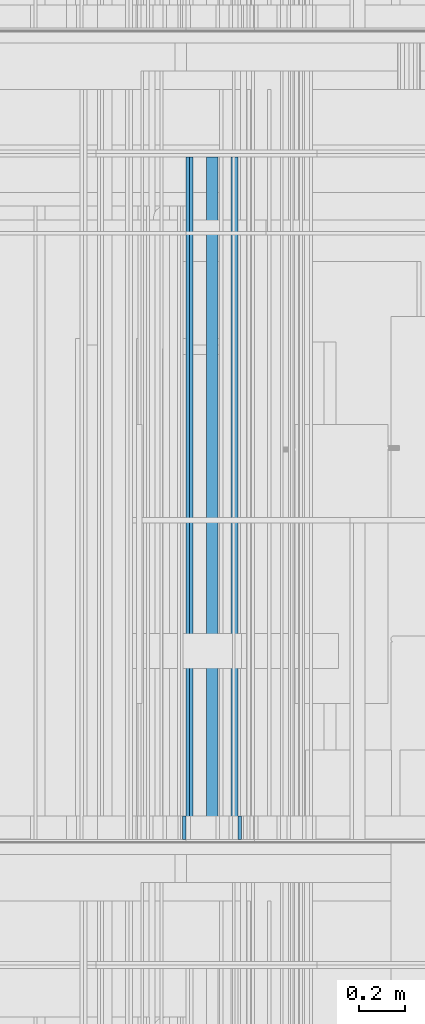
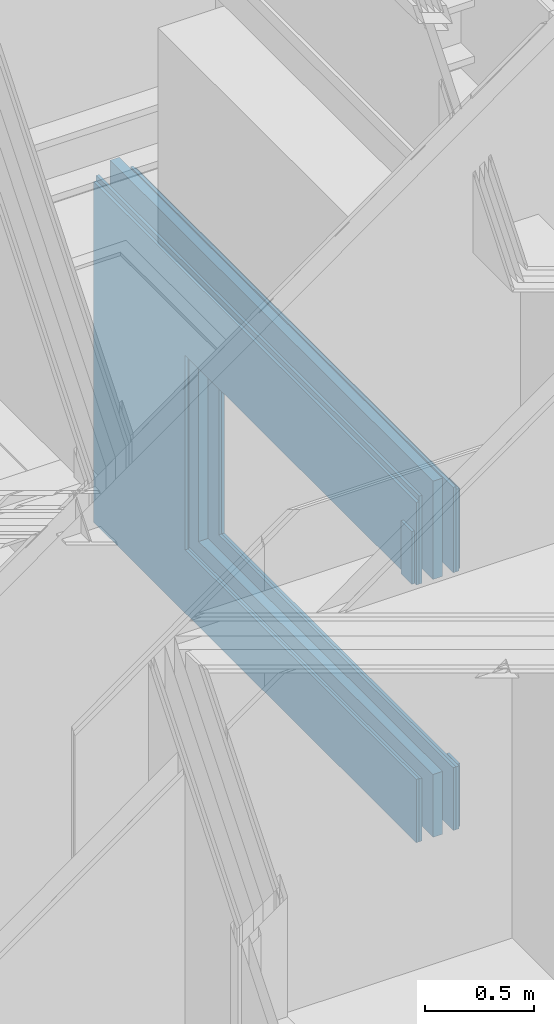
# One storey, part 77 of 583: 7 building element parts, 2 openings, 1 element without a shape of its own.
"""IFC2X3 building model written with IfcOpenShell, lengths in metres."""

from ifc_helpers import new_model, entity, si_unit, converted_unit, derived_unit, money_unit, direction, frame, frame_2d, origin_with_axes, place, context, subcontext, project, spatial, rectangle, extrude, material, type_object, element, aggregate, save


model = new_model("IFC2X3")

# Units and contexts
model_context = context("Model", 3, precision=1e-05, world=origin_with_axes(), true_north=direction((0.0, 1.0)))
body_context = subcontext(model_context, "Body", "Model", "MODEL_VIEW", scale=1.0)
ifc_project = project(units=[si_unit("LENGTHUNIT", "METRE"), si_unit("AREAUNIT", "SQUARE_METRE"), si_unit("VOLUMEUNIT", "CUBIC_METRE"), si_unit("ABSORBEDDOSEUNIT", "GRAY"), si_unit("AMOUNTOFSUBSTANCEUNIT", "MOLE"), si_unit("DOSEEQUIVALENTUNIT", "SIEVERT"), si_unit("ELECTRICCAPACITANCEUNIT", "FARAD"), si_unit("ELECTRICCHARGEUNIT", "COULOMB"), si_unit("ELECTRICCONDUCTANCEUNIT", "SIEMENS"), si_unit("ELECTRICCURRENTUNIT", "AMPERE"), si_unit("ELECTRICRESISTANCEUNIT", "OHM"), si_unit("ELECTRICVOLTAGEUNIT", "VOLT"), si_unit("ENERGYUNIT", "JOULE"), si_unit("FORCEUNIT", "NEWTON"), si_unit("FREQUENCYUNIT", "HERTZ"), si_unit("ILLUMINANCEUNIT", "LUX"), si_unit("INDUCTANCEUNIT", "HENRY"), si_unit("LUMINOUSFLUXUNIT", "LUMEN"), si_unit("LUMINOUSINTENSITYUNIT", "CANDELA"), si_unit("MAGNETICFLUXDENSITYUNIT", "TESLA"), si_unit("MAGNETICFLUXUNIT", "WEBER"), si_unit("MASSUNIT", "GRAM"), converted_unit("PLANEANGLEUNIT", "degree", entity("IfcReal", 0.0174532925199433), si_unit("PLANEANGLEUNIT", "RADIAN"), dimensions=[0, 0, 0, 0, 0, 0, 0]), si_unit("POWERUNIT", "WATT"), si_unit("PRESSUREUNIT", "PASCAL"), si_unit("RADIOACTIVITYUNIT", "BECQUEREL"), si_unit("SOLIDANGLEUNIT", "STERADIAN"), si_unit("THERMODYNAMICTEMPERATUREUNIT", "KELVIN"), si_unit("TIMEUNIT", "SECOND"), derived_unit("ACCELERATIONUNIT", [(si_unit("LENGTHUNIT", "METRE"), 1), (si_unit("TIMEUNIT", "SECOND"), -2)]), derived_unit("ANGULARVELOCITYUNIT", [(converted_unit("PLANEANGLEUNIT", "degree", entity("IfcReal", 0.0174532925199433), si_unit("PLANEANGLEUNIT", "RADIAN"), dimensions=[0, 0, 0, 0, 0, 0, 0]), 1), (si_unit("TIMEUNIT", "SECOND"), -1)]), derived_unit("CURVATUREUNIT", [(converted_unit("PLANEANGLEUNIT", "degree", entity("IfcReal", 0.0174532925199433), si_unit("PLANEANGLEUNIT", "RADIAN"), dimensions=[0, 0, 0, 0, 0, 0, 0]), 1), (si_unit("LENGTHUNIT", "METRE"), -1)]), derived_unit("DYNAMICVISCOSITYUNIT", [(si_unit("PRESSUREUNIT", "PASCAL"), 1), (si_unit("TIMEUNIT", "SECOND"), 1)]), derived_unit("HEATFLUXDENSITYUNIT", [(si_unit("POWERUNIT", "WATT"), 1), (si_unit("LENGTHUNIT", "METRE"), -2)]), derived_unit("HEATINGVALUEUNIT", [(si_unit("ENERGYUNIT", "JOULE"), 1), (si_unit("MASSUNIT", "GRAM"), -1)]), derived_unit("INTEGERCOUNTRATEUNIT", [(si_unit("TIMEUNIT", "SECOND"), -1)]), derived_unit("IONCONCENTRATIONUNIT", [(si_unit("MASSUNIT", "GRAM"), 1), (si_unit("VOLUMEUNIT", "CUBIC_METRE"), -1)]), derived_unit("ISOTHERMALMOISTURECAPACITYUNIT", [(si_unit("VOLUMEUNIT", "CUBIC_METRE"), 1), (si_unit("MASSUNIT", "GRAM"), -1)]), derived_unit("KINEMATICVISCOSITYUNIT", [(si_unit("AREAUNIT", "SQUARE_METRE"), 1), (si_unit("TIMEUNIT", "SECOND"), -1)]), derived_unit("LINEARFORCEUNIT", [(si_unit("FORCEUNIT", "NEWTON"), 1), (si_unit("LENGTHUNIT", "METRE"), -1)]), derived_unit("LINEARMOMENTUNIT", [(si_unit("FORCEUNIT", "NEWTON"), 1), (si_unit("LENGTHUNIT", "METRE"), -1)]), derived_unit("LINEARSTIFFNESSUNIT", [(si_unit("FORCEUNIT", "NEWTON"), 1), (si_unit("LENGTHUNIT", "METRE"), -1)]), derived_unit("LINEARVELOCITYUNIT", [(si_unit("LENGTHUNIT", "METRE"), 1), (si_unit("TIMEUNIT", "SECOND"), -1)]), derived_unit("LUMINOUSINTENSITYDISTRIBUTIONUNIT", [(si_unit("LUMINOUSINTENSITYUNIT", "CANDELA"), 1), (si_unit("LUMINOUSFLUXUNIT", "LUMEN"), -1)]), derived_unit("MASSDENSITYUNIT", [(si_unit("MASSUNIT", "GRAM"), 1), (si_unit("VOLUMEUNIT", "CUBIC_METRE"), -1)]), derived_unit("MASSFLOWRATEUNIT", [(si_unit("MASSUNIT", "GRAM"), 1), (si_unit("TIMEUNIT", "SECOND"), -1)]), derived_unit("MASSPERLENGTHUNIT", [(si_unit("MASSUNIT", "GRAM"), 1), (si_unit("LENGTHUNIT", "METRE"), -1)]), derived_unit("MODULUSOFELASTICITYUNIT", [(si_unit("FORCEUNIT", "NEWTON"), 1), (si_unit("AREAUNIT", "SQUARE_METRE"), -1)]), derived_unit("MODULUSOFLINEARSUBGRADEREACTIONUNIT", [(si_unit("FORCEUNIT", "NEWTON"), 1), (si_unit("LENGTHUNIT", "METRE"), -2)]), derived_unit("MODULUSOFROTATIONALSUBGRADEREACTIONUNIT", [(si_unit("FORCEUNIT", "NEWTON"), 1), (si_unit("LENGTHUNIT", "METRE"), 1)]), derived_unit("MODULUSOFSUBGRADEREACTIONUNIT", [(si_unit("FORCEUNIT", "NEWTON"), 1), (si_unit("VOLUMEUNIT", "CUBIC_METRE"), -1)]), derived_unit("MOISTUREDIFFUSIVITYUNIT", [(si_unit("VOLUMEUNIT", "CUBIC_METRE"), 1), (si_unit("TIMEUNIT", "SECOND"), -1)]), derived_unit("MOLECULARWEIGHTUNIT", [(si_unit("MASSUNIT", "GRAM"), 1), (si_unit("AMOUNTOFSUBSTANCEUNIT", "MOLE"), -1)]), derived_unit("PLANARFORCEUNIT", [(si_unit("FORCEUNIT", "NEWTON"), 1), (si_unit("LENGTHUNIT", "METRE"), -2)]), derived_unit("ROTATIONALFREQUENCYUNIT", [(si_unit("TIMEUNIT", "SECOND"), -1)]), derived_unit("ROTATIONALMASSUNIT", [(si_unit("MASSUNIT", "GRAM"), 1), (si_unit("LENGTHUNIT", "METRE"), 2)]), derived_unit("ROTATIONALSTIFFNESSUNIT", [(si_unit("FORCEUNIT", "NEWTON"), 1), (si_unit("LENGTHUNIT", "METRE"), 1), (converted_unit("PLANEANGLEUNIT", "degree", entity("IfcReal", 0.0174532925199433), si_unit("PLANEANGLEUNIT", "RADIAN"), dimensions=[0, 0, 0, 0, 0, 0, 0]), -1)]), derived_unit("SECTIONAREAINTEGRALUNIT", [(si_unit("LENGTHUNIT", "METRE"), 5)]), derived_unit("SECTIONMODULUSUNIT", [(si_unit("LENGTHUNIT", "METRE"), 3)]), derived_unit("SHEARMODULUSUNIT", [(si_unit("FORCEUNIT", "NEWTON"), 1), (si_unit("AREAUNIT", "SQUARE_METRE"), -1)]), derived_unit("SOUNDPOWERUNIT", [(si_unit("ENERGYUNIT", "JOULE"), 1), (si_unit("TIMEUNIT", "SECOND"), -1)]), derived_unit("SPECIFICHEATCAPACITYUNIT", [(si_unit("FORCEUNIT", "NEWTON"), 1), (si_unit("MASSUNIT", "GRAM"), -1), (si_unit("THERMODYNAMICTEMPERATUREUNIT", "KELVIN"), -1)]), derived_unit("TEMPERATUREGRADIENTUNIT", [(si_unit("THERMODYNAMICTEMPERATUREUNIT", "KELVIN"), 1), (si_unit("LENGTHUNIT", "METRE"), -1)]), derived_unit("THERMALADMITTANCEUNIT", [(si_unit("POWERUNIT", "WATT"), 1), (si_unit("AREAUNIT", "SQUARE_METRE"), -1), (si_unit("THERMODYNAMICTEMPERATUREUNIT", "KELVIN"), -1)]), derived_unit("THERMALCONDUCTANCEUNIT", [(si_unit("POWERUNIT", "WATT"), 1), (si_unit("LENGTHUNIT", "METRE"), -1), (si_unit("THERMODYNAMICTEMPERATUREUNIT", "KELVIN"), -1)]), derived_unit("THERMALEXPANSIONCOEFFICIENTUNIT", [(si_unit("THERMODYNAMICTEMPERATUREUNIT", "KELVIN"), -1)]), derived_unit("THERMALRESISTANCEUNIT", [(si_unit("AREAUNIT", "SQUARE_METRE"), 1), (si_unit("POWERUNIT", "WATT"), -1)]), derived_unit("THERMALTRANSMITTANCEUNIT", [(si_unit("POWERUNIT", "WATT"), 1), (si_unit("AREAUNIT", "SQUARE_METRE"), -1), (si_unit("THERMODYNAMICTEMPERATUREUNIT", "KELVIN"), -1)]), derived_unit("TORQUEUNIT", [(si_unit("FORCEUNIT", "NEWTON"), 1), (si_unit("LENGTHUNIT", "METRE"), 1)]), derived_unit("VAPORPERMEABILITYUNIT", [(si_unit("MASSUNIT", "GRAM"), 1), (si_unit("TIMEUNIT", "SECOND"), -1)]), derived_unit("VOLUMETRICFLOWRATEUNIT", [(si_unit("VOLUMEUNIT", "CUBIC_METRE"), 1), (si_unit("TIMEUNIT", "SECOND"), -1)]), derived_unit("WARPINGCONSTANTUNIT", [(si_unit("LENGTHUNIT", "METRE"), 6)]), derived_unit("WARPINGMOMENTUNIT", [(si_unit("FORCEUNIT", "NEWTON"), 1), (si_unit("LENGTHUNIT", "METRE"), 2)]), money_unit("GBP")], contexts=[model_context])

# Site, building, storey
site_placement = place(None, origin_with_axes())
site = spatial("IfcSite", under=ifc_project, at=site_placement, Name="Site", CompositionType="ELEMENT")
building_placement = place(site_placement, origin_with_axes())
building = spatial("IfcBuilding", under=site, at=building_placement, Name="Building01", CompositionType="ELEMENT")
storey_placement = place(building_placement, frame((0.0, 0.0, 20.78), z_axis=(0.0, 0.0, 1.0), x_axis=(1.0, 0.0, 0.0)))
storey = spatial("IfcBuildingStorey", under=building, at=storey_placement, Name="RL", CompositionType="ELEMENT", Elevation=20.78)

# Wall, openings, building element parts
wall_type = type_object("IfcWallType", Name="SHE_A-Walls_Type01c_Partywall_225mm_twin_tall", PredefinedType="NOTDEFINED")
wall_placement = place(storey_placement, frame((6.793, 8.64, -2.78), z_axis=(0.0, 1.0, 0.0), x_axis=(0.0, 0.0, 1.0)))
wall = element("IfcWall", 1, at=wall_placement, inside=storey, type_object=wall_type, Name="1C", ObjectType="SHE_A-Walls_Type01c_Partywall_225mm_twin_tall")
opening_1_placement = place(wall_placement, frame((0.353, -0.313, -0.03), z_axis=(0.0, 0.0, 1.0), x_axis=(1.0, 0.0, 0.0)))
element("IfcOpeningElement", 2, at=opening_1_placement, cuts=wall, Name="Opening", ObjectType="Opening", context=body_context, shape_type="SweptSolid", body=[
    extrude(rectangle(XDim=2.142, YDim=1.084, at=frame_2d((-0.542, 1.071), x_axis=(0.0, -1.0))), frame((0.0, -0.5445, 0.0), z_axis=(0.0, 1.0, 0.0), x_axis=(-1.0, 0.0, 0.0)), (0.0, 0.0, 1.0), 1.089),
])
opening_2_placement = place(wall_placement, frame((0.35, 0.137, 0.0), z_axis=(0.0, 0.0, 1.0), x_axis=(1.0, 0.0, 0.0)))
element("IfcOpeningElement", 3, at=opening_2_placement, cuts=wall, Name="Opening", ObjectType="Opening", context=body_context, shape_type="SweptSolid", body=[
    extrude(rectangle(XDim=2.142, YDim=1.084, at=frame_2d((-0.542, 1.071), x_axis=(0.0, -1.0))), frame((0.0, -0.2055, 0.0), z_axis=(0.0, 1.0, 0.0), x_axis=(-1.0, 0.0, 0.0)), (0.0, 0.0, 1.0), 0.411),
])
ifc_material_1 = material(Name="A_BSUK_Insulation")
placement = place(wall_placement, origin_with_axes())
building_element_part_1 = element("IfcBuildingElementPart", 4, at=placement, material=ifc_material_1, Name="1", context=body_context, shape_type="SweptSolid", body=[
    extrude(rectangle(XDim=1.985661, YDim=0.05, at=frame_2d((0.992831, 0.025), x_axis=(-1.0, 0.0))), origin_with_axes(), (0.0, 0.0, 1.0), 2.95),
])
ifc_material_2 = material(Name="A_BSUK_Walls_Timber")
building_element_part_2 = element("IfcBuildingElementPart", 5, at=placement, material=ifc_material_2, Name="2", context=body_context, shape_type="SweptSolid", body=[
    extrude(rectangle(XDim=1.882661, YDim=0.015, at=frame_2d((0.941331, 0.1445), x_axis=(-1.0, 0.0))), frame((0.0, 0.0, 0.015), z_axis=(0.0, 0.0, 1.0), x_axis=(1.0, 0.0, 0.0)), (0.0, 0.0, 1.0), 0.1),
])
ifc_material_3 = material(Name="A_BSUK_WallInternal_Finishes_Plasterboard")
building_element_part_3 = element("IfcBuildingElementPart", 6, at=placement, material=ifc_material_3, Name="3", context=body_context, shape_type="SweptSolid", body=[
    extrude(rectangle(XDim=1.897661, YDim=0.015, at=frame_2d((0.948831, 0.1295), x_axis=(-1.0, 0.0))), origin_with_axes(), (0.0, 0.0, 1.0), 2.95),
])
building_element_part_4 = element("IfcBuildingElementPart", 7, at=placement, material=ifc_material_3, Name="4", context=body_context, shape_type="SweptSolid", body=[
    extrude(rectangle(XDim=1.912661, YDim=0.015, at=frame_2d((0.956331, 0.1145), x_axis=(-1.0, 0.0))), origin_with_axes(), (0.0, 0.0, 1.0), 2.95),
])
building_element_part_5 = element("IfcBuildingElementPart", 8, at=placement, material=ifc_material_3, Name="5", context=body_context, shape_type="SweptSolid", body=[
    extrude(rectangle(XDim=1.927661, YDim=0.015, at=frame_2d((0.963831, -0.0655), x_axis=(-1.0, 0.0))), origin_with_axes(), (0.0, 0.0, 1.0), 2.95),
])
building_element_part_6 = element("IfcBuildingElementPart", 9, at=placement, material=ifc_material_3, Name="6", context=body_context, shape_type="SweptSolid", body=[
    extrude(rectangle(XDim=1.897661, YDim=0.015, at=frame_2d((0.948831, -0.0805), x_axis=(-1.0, 0.0))), origin_with_axes(), (0.0, 0.0, 1.0), 2.95),
])
building_element_part_7 = element("IfcBuildingElementPart", 10, at=placement, material=ifc_material_2, Name="7", context=body_context, shape_type="SweptSolid", body=[
    extrude(rectangle(XDim=0.401969, YDim=0.015, at=frame_2d((1.529984, -0.0955), x_axis=(-1.0, 0.0))), frame((0.0, 0.0, 0.015), z_axis=(0.0, 0.0, 1.0), x_axis=(1.0, 0.0, 0.0)), (0.0, 0.0, 1.0), 0.1),
])
aggregate(wall, [building_element_part_1, building_element_part_2, building_element_part_3, building_element_part_4, building_element_part_5, building_element_part_6, building_element_part_7])

save(model, "model.ifc")
